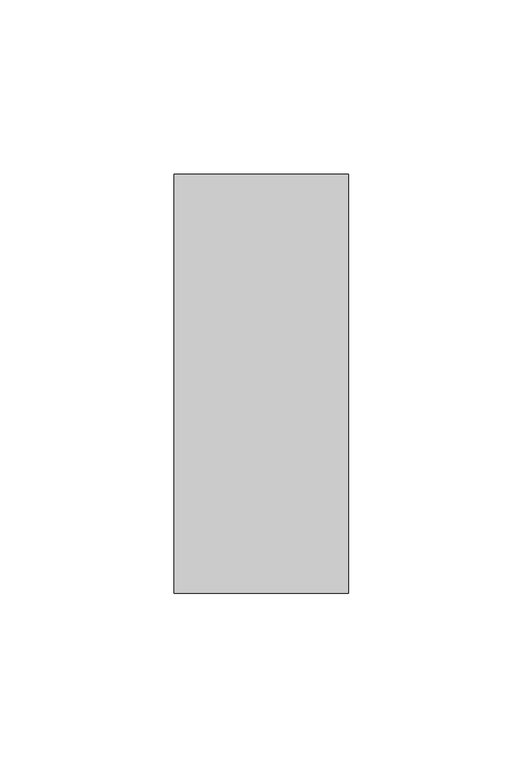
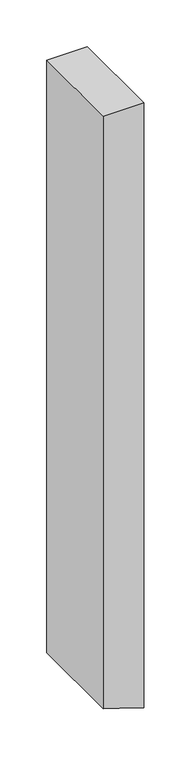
"""IFC4 building model written with IfcOpenShell, lengths in millimetres: member geometry, Прямоугольный импост : 50х120 мм."""

from ifc_helpers import new_model, si_unit, frame, origin, place, context, project, spatial, polyline, outline, extrude, source, transform, mapped, element, save


def member_bf5daf80(model_context):
    return source(origin(), model_context, "Body", "SweptSolid", [
        extrude(outline(polyline([(0.0, 25.0), (0.0, -25.0), (-771.2263152, -25.0), (-784.369593, 15.4508497), (-787.4723, 25.0), (0.0, 25.0)])), frame((0.0, -60.0, 0.0), z_axis=(0.0, 1.0, 0.0), x_axis=(0.0, 0.0, 1.0)), (0.0, 0.0, 1.0), 120.0),
    ])


if __name__ == "__main__":
    model = new_model("IFC4")
    model_context = context("Model", 3, world=origin())
    ifc_project = project(units=[si_unit("LENGTHUNIT", "METRE", prefix="MILLI")], contexts=[model_context])
    site = spatial("IfcSite", under=ifc_project)
    building = spatial("IfcBuilding", under=site)
    placement = place(None, origin())
    member_shape = member_bf5daf80(model_context)
    element("IfcMember", 1, ObjectType="Прямоугольный импост : 50х120 мм", at=placement, inside=building, context=model_context, shape_type="MappedRepresentation", body=[
        mapped(member_shape, transform((0.0, 0.0, 0.0), x_axis=(1.0, 0.0, 0.0), y_axis=(0.0, 1.0, 0.0), z_axis=(0.0, 0.0, 1.0))),
    ])
    save(model, "model.ifc")
